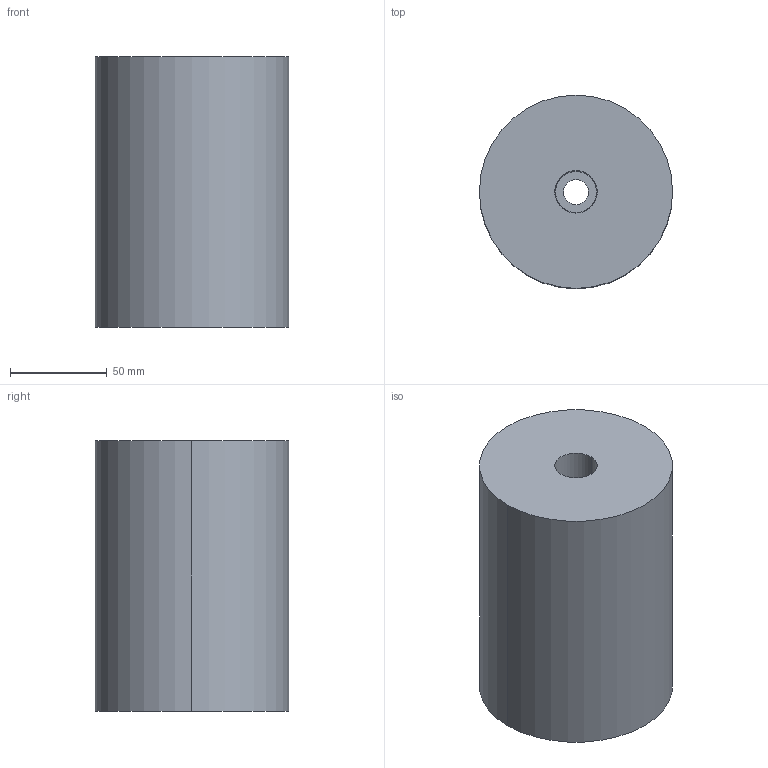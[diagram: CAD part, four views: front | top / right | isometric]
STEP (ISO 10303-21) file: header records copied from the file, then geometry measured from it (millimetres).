
FILE_DESCRIPTION(/* description */ (''),/* implementation_level */ '2;1');
FILE_NAME(/* name */ '3d_est100-140_07033_r00.stp',/* time_stamp */ '2011-01-10T14:15:39+09:00',/* author */ ('MISUMI'),/* organization */ (''),/* preprocessor_version */ 'ST-DEVELOPER v11',/* originating_system */ 'UGS - NX 5.0',/* authorisation */ '');
FILE_SCHEMA (('CONFIG_CONTROL_DESIGN'));
Length unit declared in the file: millimetre
Products named in the file (1): 3d_est100-140_07033_r00
Bounding box: 100 x 100 x 140 mm (x, y, z)
Volume: 1057247 mm3; surface area: 73309 mm2
Topology: 2 solids, 2 shells, 19 faces, 38 edges, 24 vertices
Faces by surface type: cylinder 10, plane 5, cone 4
Entity records: 596 total; most frequent: DIRECTION 102, CARTESIAN_POINT 82, ORIENTED_EDGE 76, AXIS2_PLACEMENT_3D 44, EDGE_CURVE 38, EDGE_LOOP 24, VERTEX_POINT 24, CIRCLE 24
